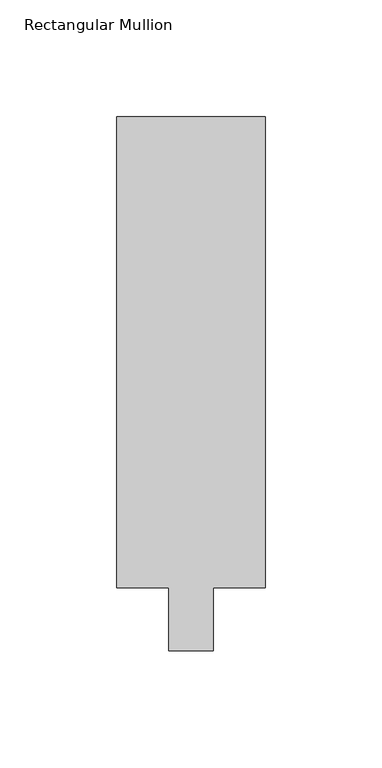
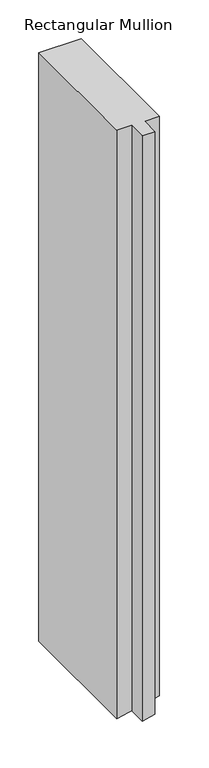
"""IFC4 building model written with IfcOpenShell, lengths in millimetres: member geometry."""

from ifc_helpers import new_model, si_unit, origin, place, context, project, spatial, faceted_brep, source, transform, mapped, element, save


def rectangular_mullion_3c99d2be(model_context):
    return source(origin(), model_context, "Body", "Brep", [
        faceted_brep([(31.75, 228.6, 0.0), (-31.75, 228.6, 0.0), (-31.75, 26.9875, 0.0), (-9.525, 26.9875, 0.0), (-9.525, 0.0, 0.0), (9.525, 0.0, 0.0), (9.525, 26.9875, 0.0), (31.75, 26.9875, 0.0), (31.75, 228.6, -913.3074398), (-13.6361042, 228.6, -923.2865373), (-31.75, 228.6, -927.2692614), (-31.75, 26.9875, -927.2692614), (-13.6361042, 26.9875, -923.2865373), (-9.525, 26.9875, -922.3826238), (-9.525, 0.0, -922.3826238), (9.525, 0.0, -918.1940774), (9.525, 26.9875, -918.1940774), (31.75, 26.9875, -913.3074398)], [[[0, 1, 2, 3, 4, 5, 6, 7]], [[1, 0, 8, 9, 10]], [[2, 1, 10, 11]], [[3, 2, 11, 12, 13]], [[4, 3, 13, 14]], [[5, 4, 14, 15]], [[6, 5, 15, 16]], [[7, 6, 16, 17]], [[0, 7, 17, 8]], [[8, 17, 16, 15, 14, 13, 12, 9]], [[12, 11, 10, 9]]]),
    ])


if __name__ == "__main__":
    model = new_model("IFC4")
    model_context = context("Model", 3, world=origin())
    ifc_project = project(units=[si_unit("LENGTHUNIT", "METRE", prefix="MILLI")], contexts=[model_context])
    site = spatial("IfcSite", under=ifc_project)
    building = spatial("IfcBuilding", under=site)
    placement = place(None, origin())
    rectangular_mullion_shape = rectangular_mullion_3c99d2be(model_context)
    element("IfcMember", 1, ObjectType="Rectangular Mullion : 2 1/2\" x 8\" - Capless", at=placement, inside=building, context=model_context, shape_type="MappedRepresentation", body=[
        mapped(rectangular_mullion_shape, transform((0.0, 0.0, 0.0), x_axis=(1.0, 0.0, 0.0), y_axis=(0.0, 1.0, 0.0), z_axis=(0.0, 0.0, 1.0))),
    ])
    save(model, "model.ifc")
